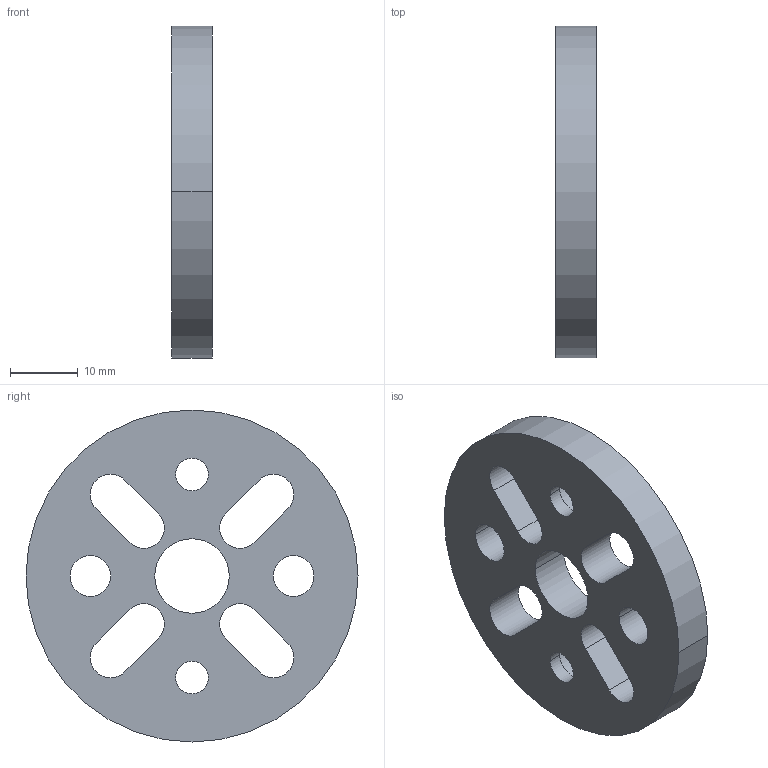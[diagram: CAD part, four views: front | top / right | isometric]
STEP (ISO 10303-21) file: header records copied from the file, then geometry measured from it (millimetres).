
FILE_DESCRIPTION(('CATIA V5 STEP Exchange','CAx-IF Rec.Pracs.--- Model Styling and Organization---1.4--- 2014-01-23','CAx-IF Rec.Pracs.---3D Tessellated Data Validation Properties---0.5---2014-09-14'),'2;1');
FILE_NAME('D:\GrabCAD\I+D\SERIE_LEXA\EKOT-1360-170921A-LEXA_WAIST_SUPPORT\FAB\FAB_C\PDF\MAQUINADO\1360.000.010.000.ENGRAE.stp','2024-11-01T00:01:43+00:00',('none'),('none'),'CATIA Version 5-6 Release 2018 SP6','CATIA V5 STEP AP242','none');
FILE_SCHEMA(('AP242_MANAGED_MODEL_BASED_3D_ENGINEERING_MIM_LF {1 0 10303 442 1 1 4}'));
Length unit declared in the file: millimetre
Products named in the file (1): 1360.000.010.000.ENGRAE
Bounding box: 6 x 49 x 49 mm (x, y, z)
Volume: 8218.3 mm3; surface area: 5247 mm2
Topology: 1 solids, 1 shells, 36 faces, 96 edges, 64 vertices
Faces by surface type: cylinder 24, plane 12
Entity records: 1172 total; most frequent: ORIENTED_EDGE 192, CARTESIAN_POINT 188, DIRECTION 150, EDGE_CURVE 96, AXIS2_PLACEMENT_3D 76, VERTEX_POINT 64, EDGE_LOOP 56, VECTOR 48
